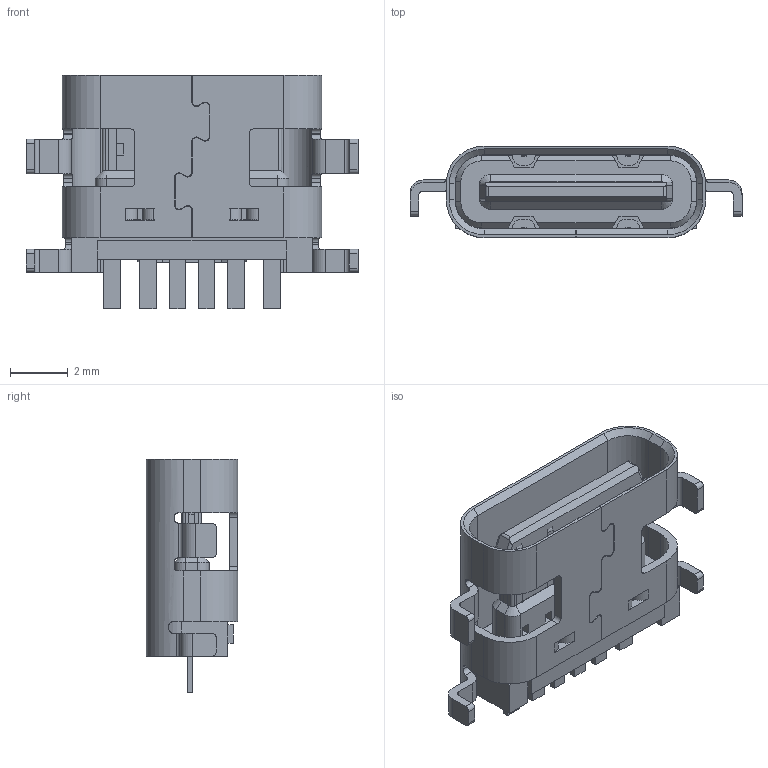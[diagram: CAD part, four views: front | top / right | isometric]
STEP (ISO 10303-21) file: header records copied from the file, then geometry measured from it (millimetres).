
FILE_DESCRIPTION (( 'STEP AP203' ), '1' );
FILE_NAME ('TYPE-C-6PIN³Á°å1.6.STEP', '2021-10-22T13:07:18', ( '' ), ( '' ), 'SwSTEP 2.0', 'SolidWorks 2020', '' );
FILE_SCHEMA (( 'CONFIG_CONTROL_DESIGN' ));
Length unit declared in the file: millimetre
Products named in the file (4): TYPE-C-6PIN麥啣1.6; typec-6pin麥啣1.6傷赽; 麥啣0.8俋褲; BOTTOM-HOUSING0
Assembly tree (3 placements, depth 2):
  TYPE-C-6PIN麥啣1.6
    BOTTOM-HOUSING0
    麥啣0.8俋褲
    typec-6pin麥啣1.6傷赽
Bounding box: 11.45 x 3.16 x 8.05 mm (x, y, z)
Volume: 93.8 mm3; surface area: 517.1 mm2
Topology: 8 solids, 8 shells, 690 faces, 1995 edges, 1302 vertices
Faces by surface type: plane 464, cylinder 200, cone 14, bspline 12
Entity records: 23489 total; most frequent: CARTESIAN_POINT 4643, ORIENTED_EDGE 3982, DIRECTION 3721, EDGE_CURVE 1991, LINE 1533, VECTOR 1533, VERTEX_POINT 1302, AXIS2_PLACEMENT_3D 1094
